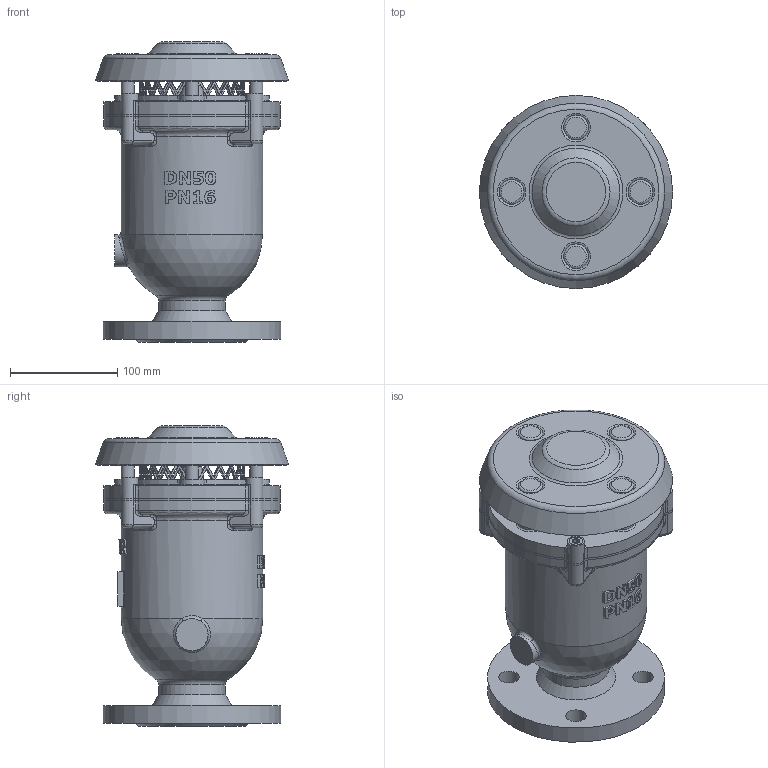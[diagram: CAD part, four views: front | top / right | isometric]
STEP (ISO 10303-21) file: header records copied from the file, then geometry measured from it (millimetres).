
FILE_DESCRIPTION(('STEP AP242'), '1');
FILE_NAME('Âîçäóøíûé êëàïàí DUOJET KX', '', ('UNSPECIFIED'), ('UNSPECIFIED'), 'C3D Converter', 'C3D Toolkit', '');
FILE_SCHEMA(('AP242_MANAGED_MODEL_BASED_3D_ENGINEERING_MIM_LF { 1 0 10303 442 1 1 4 }'));
Length unit declared in the file: millimetre
Assembly tree (29 placements, depth 2):
  (unnamed)
    (unnamed)
    (unnamed)
    (unnamed)
    (unnamed)
    (unnamed)
    (unnamed)
    (unnamed)  x4
    (unnamed)  x4
    (unnamed)
    (unnamed)
    (unnamed)
    (unnamed)
    (unnamed)  x3
    (unnamed)  x4
    (unnamed)  x4
Bounding box: 180 x 180 x 280 mm (x, y, z)
Volume: 1566629.5 mm3; surface area: 594917.5 mm2
Topology: 30 solids, 31 shells, 1189 faces, 3062 edges, 1995 vertices
Faces by surface type: plane 398, bspline 298, cylinder 249, extrusion 134, torus 56, cone 41, sphere 13
Full cylindrical faces by diameter (mm): 5.4 x4, 5.5 x4, 6 x15, 8 x20, 9 x2, 12 x4, 12.5 x2, 12.8 x4, 13 x4, 14 x4, 16 x4, 16.447 x1, 18.5 x1, 19 x4, 30 x1, 50 x2, 62 x1, 69 x2, 75 x1, 92 x1, 96 x4, 98 x1, 108 x2, 120 x1, 130 x2, 132 x3, 165 x1
Entity records: 92060 total; most frequent: CARTESIAN_POINT 65455, ORIENTED_EDGE 5330, DIRECTION 3475, EDGE_CURVE 2665, VERTEX_POINT 1809, B_SPLINE_CURVE_WITH_KNOTS 1447, EDGE_LOOP 1410, AXIS2_PLACEMENT_3D 1341
